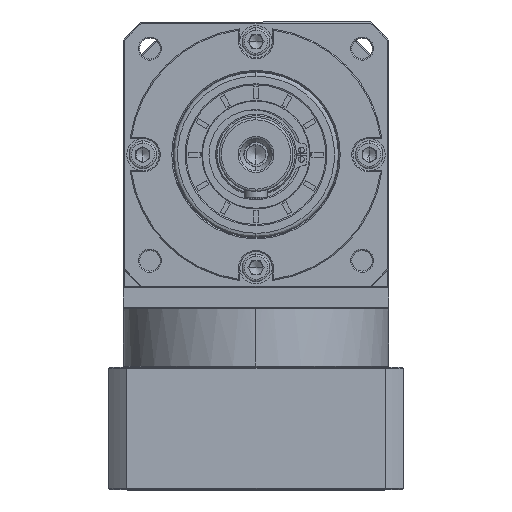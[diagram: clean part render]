
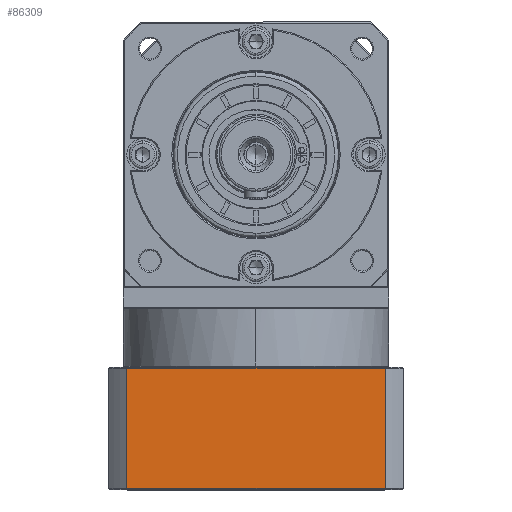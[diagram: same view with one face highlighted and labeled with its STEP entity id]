
A CAD part, top view. The second image highlights one B-rep face of the part: STEP entity #86309.
In plain terms, the highlighted planar face has unit normal (0, 0, 1).
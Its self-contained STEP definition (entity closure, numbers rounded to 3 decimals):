
#1040 = VECTOR ( 'NONE', #140142, 1000. ) ;
#3167 = ORIENTED_EDGE ( 'NONE', *, *, #30133, .F. ) ;
#5232 = LINE ( 'NONE', #126666, #1040 ) ;
#13732 = LINE ( 'NONE', #171517, #85216 ) ;
#30133 = EDGE_CURVE ( 'NONE', #139089, #122220, #13732, .T. ) ;
#30437 = ORIENTED_EDGE ( 'NONE', *, *, #65951, .F. ) ;
#44757 = CARTESIAN_POINT ( 'NONE',  ( -265.105, -196.285, 58.391 ) ) ;
#45437 = ORIENTED_EDGE ( 'NONE', *, *, #109062, .F. ) ;
#47185 = AXIS2_PLACEMENT_3D ( 'NONE', #142943, #62420, #156413 ) ;
#55064 = VECTOR ( 'NONE', #120515, 1000. ) ;
#62420 = DIRECTION ( 'NONE',  ( 0., 0., -1. ) ) ;
#65951 = EDGE_CURVE ( 'NONE', #101017, #71832, #162213, .T. ) ;
#69414 = FACE_OUTER_BOUND ( 'NONE', #92218, .T. ) ;
#71832 = VERTEX_POINT ( 'NONE', #150143 ) ;
#75259 = PLANE ( 'NONE',  #47185 ) ;
#85216 = VECTOR ( 'NONE', #117524, 1000. ) ;
#86309 = ADVANCED_FACE ( 'NONE', ( #69414 ), #75259, .F. ) ;
#92218 = EDGE_LOOP ( 'NONE', ( #45437, #30437, #112326, #3167 ) ) ;
#94715 = CARTESIAN_POINT ( 'NONE',  ( -265.105, -143.785, 58.391 ) ) ;
#96686 = LINE ( 'NONE', #44757, #128310 ) ;
#99839 = CARTESIAN_POINT ( 'NONE',  ( -265.105, -195.785, 58.391 ) ) ;
#101017 = VERTEX_POINT ( 'NONE', #94715 ) ;
#102759 = CARTESIAN_POINT ( 'NONE',  ( -153.23, -195.785, 58.391 ) ) ;
#106992 = CARTESIAN_POINT ( 'NONE',  ( -273.167, -143.785, 58.391 ) ) ;
#109062 = EDGE_CURVE ( 'NONE', #71832, #139089, #5232, .T. ) ;
#112326 = ORIENTED_EDGE ( 'NONE', *, *, #151238, .F. ) ;
#117524 = DIRECTION ( 'NONE',  ( -1., 0., 0. ) ) ;
#120515 = DIRECTION ( 'NONE',  ( 1., 0., 0. ) ) ;
#122220 = VERTEX_POINT ( 'NONE', #99839 ) ;
#126666 = CARTESIAN_POINT ( 'NONE',  ( -153.23, 99.535, 58.391 ) ) ;
#128310 = VECTOR ( 'NONE', #152328, 1000. ) ;
#139089 = VERTEX_POINT ( 'NONE', #102759 ) ;
#140142 = DIRECTION ( 'NONE',  ( 0., -1., 0. ) ) ;
#142943 = CARTESIAN_POINT ( 'NONE',  ( -273.167, -196.285, 58.391 ) ) ;
#150143 = CARTESIAN_POINT ( 'NONE',  ( -153.23, -143.785, 58.391 ) ) ;
#151238 = EDGE_CURVE ( 'NONE', #122220, #101017, #96686, .T. ) ;
#152328 = DIRECTION ( 'NONE',  ( 0., 1., 0. ) ) ;
#156413 = DIRECTION ( 'NONE',  ( -1., 0., 0. ) ) ;
#162213 = LINE ( 'NONE', #106992, #55064 ) ;
#171517 = CARTESIAN_POINT ( 'NONE',  ( -273.167, -195.785, 58.391 ) ) ;
